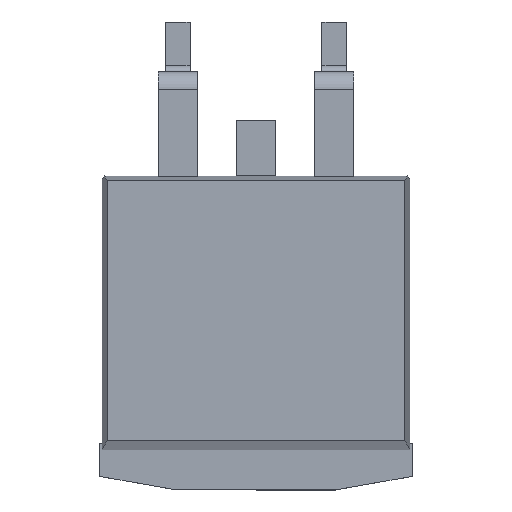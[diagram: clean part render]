
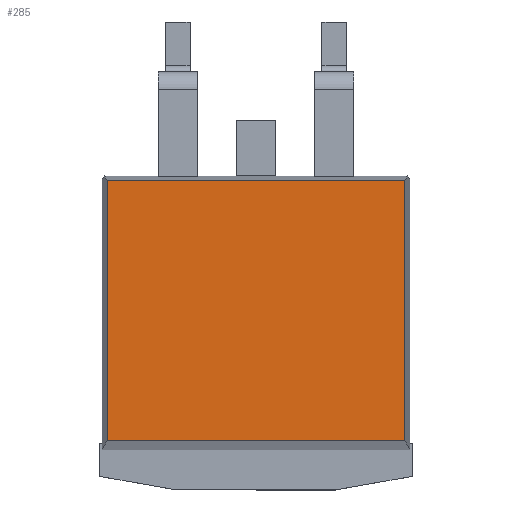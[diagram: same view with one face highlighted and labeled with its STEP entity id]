
A CAD part, top view. The second image highlights one B-rep face of the part: STEP entity #285.
In plain terms, the highlighted planar face has unit normal (0, 0, 1).
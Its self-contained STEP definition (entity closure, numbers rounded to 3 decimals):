
#285=ADVANCED_FACE('',(#507),#406,.F.);
#406=PLANE('',#2403);
#507=FACE_OUTER_BOUND('',#628,.T.);
#628=EDGE_LOOP('',(#773,#774,#775,#776));
#773=ORIENTED_EDGE('',*,*,#1574,.T.);
#774=ORIENTED_EDGE('',*,*,#1576,.T.);
#775=ORIENTED_EDGE('',*,*,#1577,.T.);
#776=ORIENTED_EDGE('',*,*,#1578,.T.);
#1375=VERTEX_POINT('',#3187);
#1376=VERTEX_POINT('',#3189);
#1377=VERTEX_POINT('',#3193);
#1378=VERTEX_POINT('',#3195);
#1574=EDGE_CURVE('',#1376,#1375,#1881,.T.);
#1576=EDGE_CURVE('',#1375,#1377,#1883,.T.);
#1577=EDGE_CURVE('',#1377,#1378,#1884,.T.);
#1578=EDGE_CURVE('',#1378,#1376,#1885,.T.);
#1881=LINE('',#3188,#2148);
#1883=LINE('',#3192,#2150);
#1884=LINE('',#3194,#2151);
#1885=LINE('',#3196,#2152);
#2148=VECTOR('',#2582,1.);
#2150=VECTOR('',#2586,1.);
#2151=VECTOR('',#2587,1.);
#2152=VECTOR('',#2588,1.);
#2403=AXIS2_PLACEMENT_3D('',#3197,#2589,#2590);
#2582=DIRECTION('',(-1.,0.,0.));
#2586=DIRECTION('',(0.,-1.,0.));
#2587=DIRECTION('',(1.,0.,0.));
#2588=DIRECTION('',(0.,1.,0.));
#2589=DIRECTION('',(0.,0.,-1.));
#2590=DIRECTION('',(0.,1.,0.));
#3187=CARTESIAN_POINT('',(-0.311,-3.716,1.833));
#3188=CARTESIAN_POINT('',(-0.48,-3.716,1.833));
#3189=CARTESIAN_POINT('',(9.35,-3.716,1.833));
#3192=CARTESIAN_POINT('',(-0.311,-12.163,1.833));
#3193=CARTESIAN_POINT('',(-0.311,-12.163,1.833));
#3194=CARTESIAN_POINT('',(9.52,-12.163,1.833));
#3195=CARTESIAN_POINT('',(9.35,-12.163,1.833));
#3196=CARTESIAN_POINT('',(9.35,-3.716,1.833));
#3197=CARTESIAN_POINT('',(9.6,-3.556,1.833));
